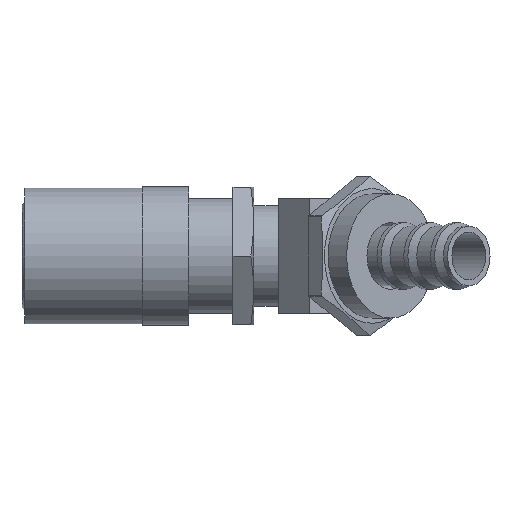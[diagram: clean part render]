
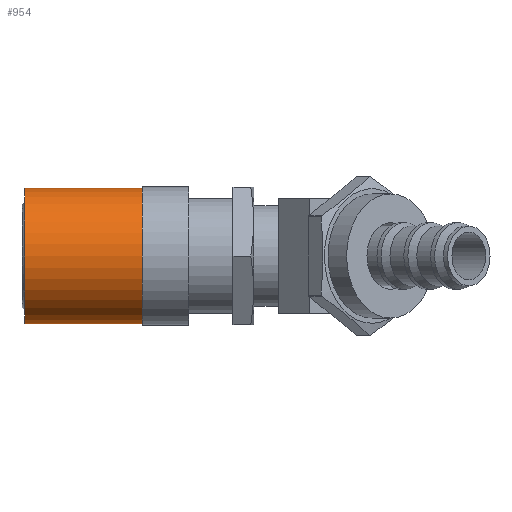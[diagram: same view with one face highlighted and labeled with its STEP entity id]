
A CAD part, front view. The second image highlights one B-rep face of the part: STEP entity #954.
In plain terms, the highlighted cylindrical face has radius 14.986 mm (diameter 29.972 mm), a full revolution.
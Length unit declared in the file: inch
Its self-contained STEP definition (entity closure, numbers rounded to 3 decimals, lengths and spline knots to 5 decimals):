
#154=CYLINDRICAL_SURFACE('',#1058,0.59);
#253=ORIENTED_EDGE('',*,*,#483,.F.);
#254=ORIENTED_EDGE('',*,*,#482,.T.);
#482=EDGE_CURVE('',#592,#592,#666,.T.);
#483=EDGE_CURVE('',#593,#593,#667,.T.);
#592=VERTEX_POINT('',#1587);
#593=VERTEX_POINT('',#1590);
#666=CIRCLE('',#1057,0.59);
#667=CIRCLE('',#1059,0.59);
#724=EDGE_LOOP('',(#253));
#725=EDGE_LOOP('',(#254));
#836=FACE_BOUND('',#724,.T.);
#837=FACE_BOUND('',#725,.T.);
#954=ADVANCED_FACE('',(#836,#837),#154,.T.);
#1057=AXIS2_PLACEMENT_3D('',#1586,#1243,#1244);
#1058=AXIS2_PLACEMENT_3D('',#1588,#1245,#1246);
#1059=AXIS2_PLACEMENT_3D('',#1589,#1247,#1248);
#1243=DIRECTION('',(1.,0.,0.));
#1244=DIRECTION('',(0.,0.,-1.));
#1245=DIRECTION('',(1.,0.,0.));
#1246=DIRECTION('',(0.,0.,-1.));
#1247=DIRECTION('',(1.,0.,0.));
#1248=DIRECTION('',(0.,0.,-1.));
#1586=CARTESIAN_POINT('',(0.,0.,0.));
#1587=CARTESIAN_POINT('',(0.,0.,-0.59));
#1588=CARTESIAN_POINT('',(2.206,0.,0.));
#1589=CARTESIAN_POINT('',(1.02,0.,0.));
#1590=CARTESIAN_POINT('',(1.02,0.,-0.59));
